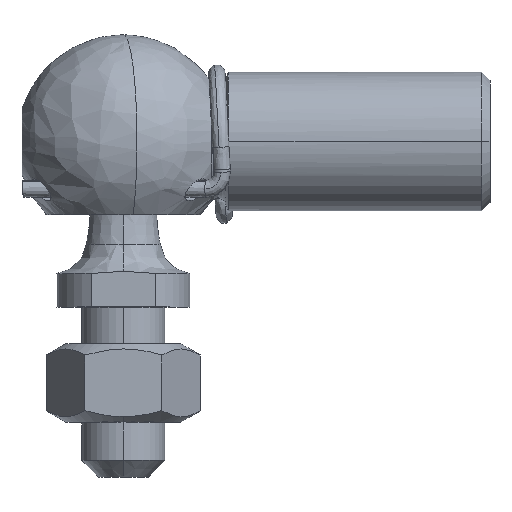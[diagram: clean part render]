
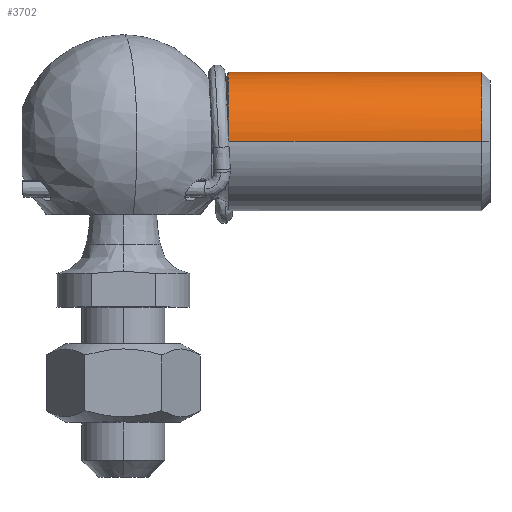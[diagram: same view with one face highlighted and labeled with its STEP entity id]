
A CAD part, top view. The second image highlights one B-rep face of the part: STEP entity #3702.
In plain terms, the highlighted cylindrical face has radius 4.15 mm (diameter 8.3 mm), a partial arc.
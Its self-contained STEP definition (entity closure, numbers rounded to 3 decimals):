
#37 = ORIENTED_EDGE ( 'NONE', *, *, #5053, .T. ) ;
#39 = DIRECTION ( 'NONE',  ( -1., 0., 0. ) ) ;
#97 = CARTESIAN_POINT ( 'NONE',  ( -7.851, -0.004, -4.15 ) ) ;
#125 = VERTEX_POINT ( 'NONE', #2650 ) ;
#282 = FACE_OUTER_BOUND ( 'NONE', #2327, .T. ) ;
#348 = DIRECTION ( 'NONE',  ( 0., 0., 1. ) ) ;
#550 = CARTESIAN_POINT ( 'NONE',  ( -15.674, -0.004, 4.15 ) ) ;
#585 = CARTESIAN_POINT ( 'NONE',  ( -15.701, 0.529, 4.116 ) ) ;
#595 = CARTESIAN_POINT ( 'NONE',  ( -7.851, -0.004, 0. ) ) ;
#647 = ORIENTED_EDGE ( 'NONE', *, *, #3629, .F. ) ;
#895 = B_SPLINE_CURVE_WITH_KNOTS ( 'NONE', 3,
 ( #585, #1736, #4591, #550 ),
 .UNSPECIFIED., .F., .F.,
 ( 4, 4 ),
 ( 0., 0.001 ),
 .UNSPECIFIED. ) ;
#1159 = EDGE_CURVE ( 'NONE', #125, #4899, #895, .T. ) ;
#1504 = DIRECTION ( 'NONE',  ( 0., 0., -1. ) ) ;
#1551 = DIRECTION ( 'NONE',  ( -1., 0., 0. ) ) ;
#1628 = EDGE_CURVE ( 'NONE', #125, #5130, #3762, .T. ) ;
#1736 = CARTESIAN_POINT ( 'NONE',  ( -15.692, 0.352, 4.139 ) ) ;
#1810 = ORIENTED_EDGE ( 'NONE', *, *, #1159, .T. ) ;
#1862 = LINE ( 'NONE', #97, #5057 ) ;
#2031 = AXIS2_PLACEMENT_3D ( 'NONE', #4868, #1551, #348 ) ;
#2207 = AXIS2_PLACEMENT_3D ( 'NONE', #595, #3490, #5116 ) ;
#2327 = EDGE_LOOP ( 'NONE', ( #4350, #37, #4412, #1810, #647 ) ) ;
#2339 = CARTESIAN_POINT ( 'NONE',  ( -0.501, -0.004, 4.15 ) ) ;
#2637 = VECTOR ( 'NONE', #4724, 1000. ) ;
#2650 = CARTESIAN_POINT ( 'NONE',  ( -15.701, 0.529, 4.116 ) ) ;
#2676 = CARTESIAN_POINT ( 'NONE',  ( -0.501, -0.004, -4.15 ) ) ;
#2898 = LINE ( 'NONE', #3842, #2637 ) ;
#3212 = DIRECTION ( 'NONE',  ( -1., 0., 0. ) ) ;
#3490 = DIRECTION ( 'NONE',  ( -1., 0., 0. ) ) ;
#3514 = VERTEX_POINT ( 'NONE', #2676 ) ;
#3568 = AXIS2_PLACEMENT_3D ( 'NONE', #4411, #3212, #1504 ) ;
#3629 = EDGE_CURVE ( 'NONE', #4882, #4899, #2898, .T. ) ;
#3702 = ADVANCED_FACE ( 'NONE', ( #282 ), #5269, .T. ) ;
#3762 = CIRCLE ( 'NONE', #3568, 4.15 ) ;
#3799 = CIRCLE ( 'NONE', #2031, 4.15 ) ;
#3842 = CARTESIAN_POINT ( 'NONE',  ( -7.851, -0.004, 4.15 ) ) ;
#4350 = ORIENTED_EDGE ( 'NONE', *, *, #4981, .T. ) ;
#4411 = CARTESIAN_POINT ( 'NONE',  ( -15.701, -0.004, 0. ) ) ;
#4412 = ORIENTED_EDGE ( 'NONE', *, *, #1628, .F. ) ;
#4587 = CARTESIAN_POINT ( 'NONE',  ( -15.701, -0.004, -4.15 ) ) ;
#4591 = CARTESIAN_POINT ( 'NONE',  ( -15.683, 0.174, 4.15 ) ) ;
#4724 = DIRECTION ( 'NONE',  ( -1., 0., 0. ) ) ;
#4755 = CARTESIAN_POINT ( 'NONE',  ( -15.674, -0.004, 4.15 ) ) ;
#4868 = CARTESIAN_POINT ( 'NONE',  ( -0.501, -0.004, 0. ) ) ;
#4882 = VERTEX_POINT ( 'NONE', #2339 ) ;
#4899 = VERTEX_POINT ( 'NONE', #4755 ) ;
#4981 = EDGE_CURVE ( 'NONE', #4882, #3514, #3799, .T. ) ;
#5053 = EDGE_CURVE ( 'NONE', #3514, #5130, #1862, .T. ) ;
#5057 = VECTOR ( 'NONE', #39, 1000. ) ;
#5116 = DIRECTION ( 'NONE',  ( 0., 0., 1. ) ) ;
#5130 = VERTEX_POINT ( 'NONE', #4587 ) ;
#5269 = CYLINDRICAL_SURFACE ( 'NONE', #2207, 4.15 ) ;
